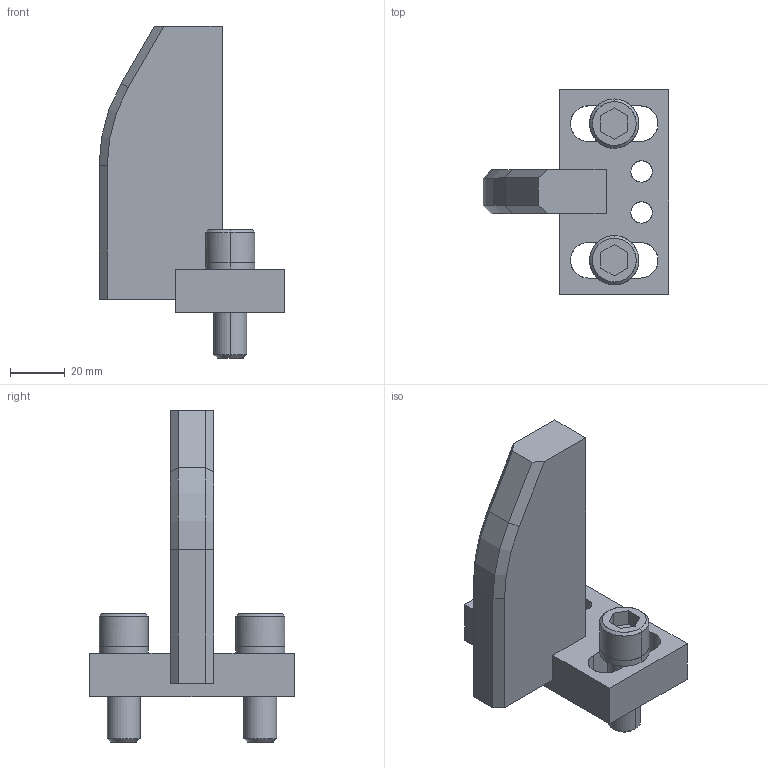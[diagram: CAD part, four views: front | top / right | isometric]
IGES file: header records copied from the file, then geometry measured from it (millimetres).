
Global section: file name: E:\UnigraphicsGraphicData\MISUMI_PRESS-PARTS\IGES\3d_ngwka-105-35-s45-k30-m12_01604_r00.igs; native system: NX V5.0; preprocessor: UGS NX IGES V5.0; author: MISUMI; date: 20110105.162119; units: millimetre
Bounding box: 68 x 75 x 121.5 mm (x, y, z)
Surface area: 30636.4 mm2 (no closed solid volume)
Topology: 0 solids, 0 shells, 104 faces, 666 edges, 666 vertices
Faces by surface type: bspline 104
